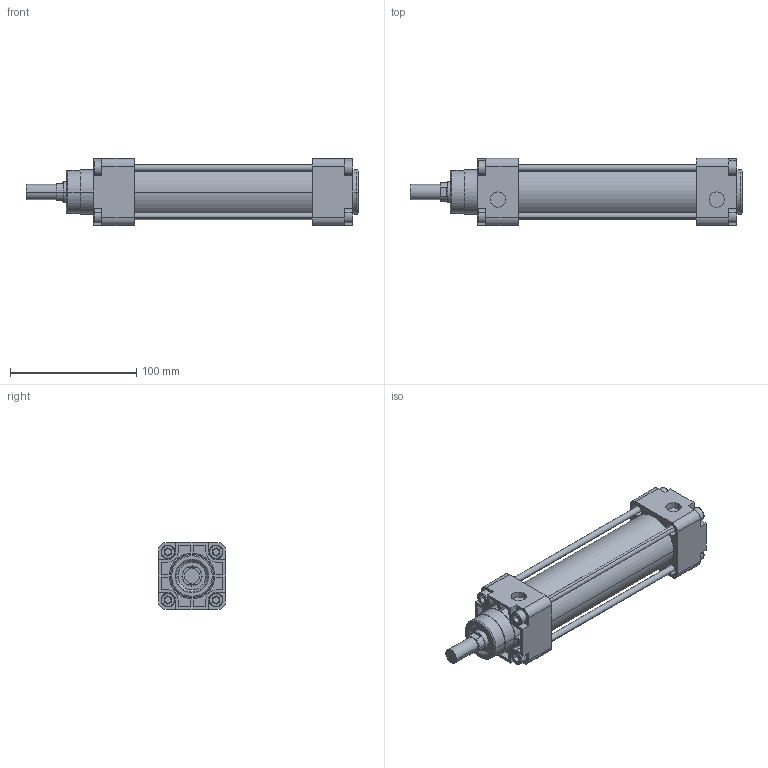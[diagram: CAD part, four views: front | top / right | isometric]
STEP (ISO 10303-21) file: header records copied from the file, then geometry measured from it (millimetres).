
FILE_DESCRIPTION(('CATIA V5 STEP Exchange'),'2;1');
FILE_NAME('D:\stp file for catalog\PNC\40\PNC 40-16-100.stp','2015-05-25T08:21:33+00:00',('none'),('none'),'Version 5-6 Release 2012','CATIA V5 STEP AP203','none');
FILE_SCHEMA(('CONFIG_CONTROL_DESIGN'));
Length unit declared in the file: millimetre
Products named in the file (1): PNC 40-16-100-00
Assembly tree (2 placements, depth 2):
  PNC 40-16-100-00
    #58
    #14775
Bounding box: 262.5 x 53 x 53 mm (x, y, z)
Volume: 302991.6 mm3; surface area: 111320.6 mm2
Topology: 2 solids, 2 shells, 562 faces, 1417 edges, 920 vertices
Faces by surface type: plane 352, cylinder 158, torus 26, cone 18, extrusion 8
Entity records: 15204 total; most frequent: CARTESIAN_POINT 2889, ORIENTED_EDGE 2834, DIRECTION 1905, EDGE_CURVE 1417, VERTEX_POINT 920, VECTOR 877, LINE 869, AXIS2_PLACEMENT_3D 764
